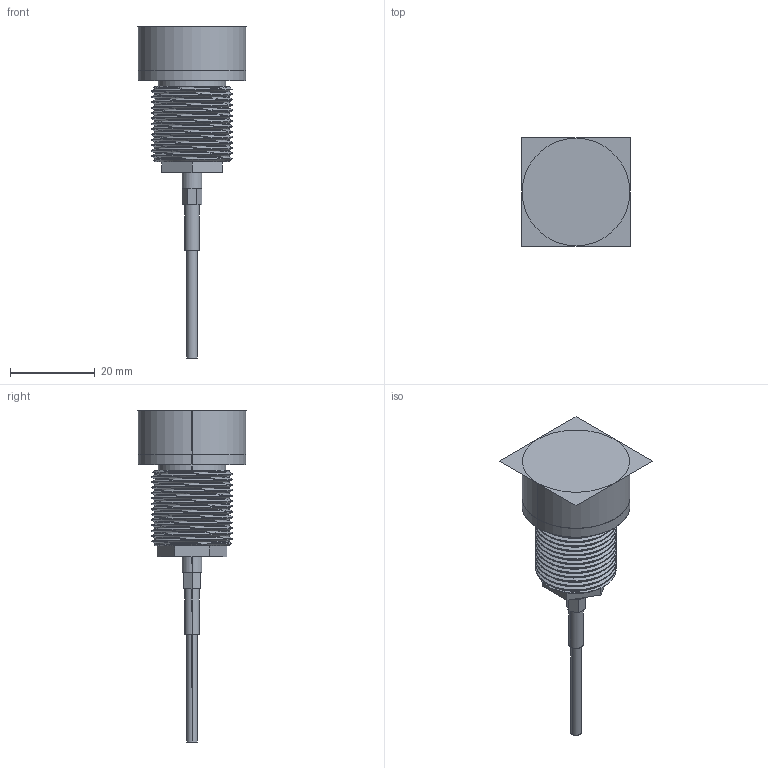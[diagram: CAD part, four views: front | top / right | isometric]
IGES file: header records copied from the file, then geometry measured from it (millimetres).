
Start section: SolidWorks IGES file using analytic representation for surfaces
Global section: file name: C:\Documents and Settings\Administrator\My Documents\EDI\3D\finished sensors\26U.IGS; native system: SolidWorks 2008; preprocessor: SolidWorks 2008; author: Administrator; date: 100305.113920; units: inch
Bounding box: 25.65 x 25.65 x 78.23 mm (x, y, z)
Surface area: 4543.6 mm2 (no closed solid volume)
Topology: 0 solids, 0 shells, 75 faces, 1255 edges, 1258 vertices
Faces by surface type: revolution 45, bspline 30
